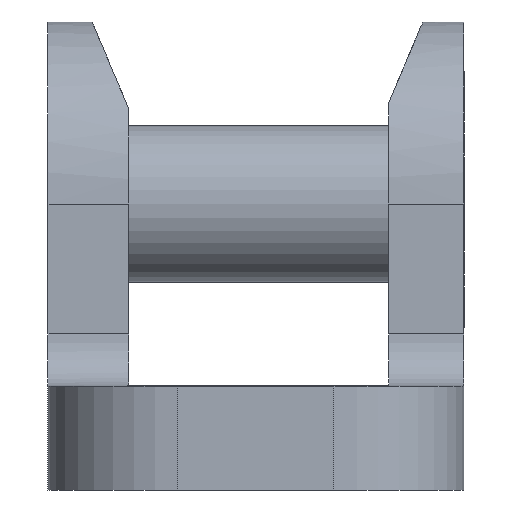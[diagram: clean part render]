
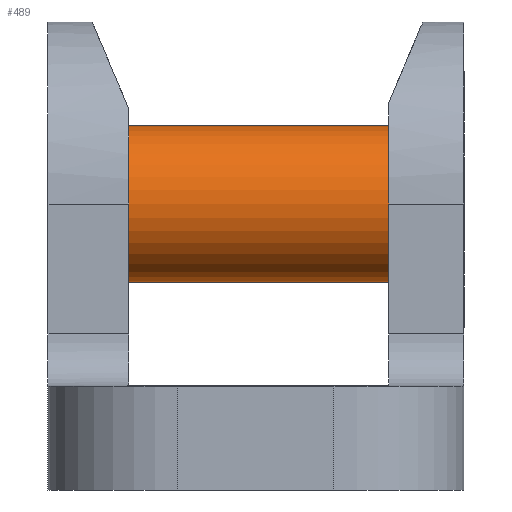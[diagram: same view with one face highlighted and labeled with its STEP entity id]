
A CAD part, front view. The second image highlights one B-rep face of the part: STEP entity #489.
In plain terms, the highlighted cylindrical face has radius 3 mm (diameter 6 mm), a partial arc.
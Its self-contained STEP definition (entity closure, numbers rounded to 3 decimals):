
#489 = ADVANCED_FACE ( 'NONE', ( #1368 ), #1363, .T. ) ;
#490 = EDGE_LOOP ( 'NONE', ( #491, #492, #493, #494 ) ) ;
#491 = ORIENTED_EDGE ( 'NONE', *, *, #499, .F. ) ;
#492 = ORIENTED_EDGE ( 'NONE', *, *, #552, .T. ) ;
#493 = ORIENTED_EDGE ( 'NONE', *, *, #505, .T. ) ;
#494 = ORIENTED_EDGE ( 'NONE', *, *, #555, .T. ) ;
#497 = VERTEX_POINT ( 'NONE', #1353 ) ;
#499 = EDGE_CURVE ( 'NONE', #497, #500, #1352, .T. ) ;
#500 = VERTEX_POINT ( 'NONE', #1348 ) ;
#503 = VERTEX_POINT ( 'NONE', #1401 ) ;
#505 = EDGE_CURVE ( 'NONE', #524, #503, #1400, .T. ) ;
#524 = VERTEX_POINT ( 'NONE', #1431 ) ;
#552 = EDGE_CURVE ( 'NONE', #497, #524, #1421, .T. ) ;
#555 = EDGE_CURVE ( 'NONE', #503, #500, #1413, .T. ) ;
#1348 = CARTESIAN_POINT ( 'NONE',  ( 0., 0., -3. ) ) ;
#1349 = DIRECTION ( 'NONE',  ( -1., 0., 0. ) ) ;
#1350 = VECTOR ( 'NONE', #1349, 1000. ) ;
#1351 = CARTESIAN_POINT ( 'NONE',  ( 16., 0., -3. ) ) ;
#1352 = LINE ( 'NONE', #1351, #1350 ) ;
#1353 = CARTESIAN_POINT ( 'NONE',  ( 16., 0., -3. ) ) ;
#1359 = DIRECTION ( 'NONE',  ( 0., 0., 1. ) ) ;
#1360 = DIRECTION ( 'NONE',  ( -1., 0., 0. ) ) ;
#1361 = CARTESIAN_POINT ( 'NONE',  ( 16., 0., 0. ) ) ;
#1362 = AXIS2_PLACEMENT_3D ( 'NONE', #1361, #1360, #1359 ) ;
#1363 = CYLINDRICAL_SURFACE ( 'NONE', #1362, 3. ) ;
#1368 = FACE_OUTER_BOUND ( 'NONE', #490, .T. ) ;
#1397 = DIRECTION ( 'NONE',  ( -1., 0., 0. ) ) ;
#1398 = VECTOR ( 'NONE', #1397, 1000. ) ;
#1399 = CARTESIAN_POINT ( 'NONE',  ( 16., 0., 3. ) ) ;
#1400 = LINE ( 'NONE', #1399, #1398 ) ;
#1401 = CARTESIAN_POINT ( 'NONE',  ( 0., 0., 3. ) ) ;
#1406 = DIRECTION ( 'NONE',  ( 0., 0., 1. ) ) ;
#1407 = DIRECTION ( 'NONE',  ( 1., 0., 0. ) ) ;
#1408 = CARTESIAN_POINT ( 'NONE',  ( 0., 0., 0. ) ) ;
#1409 = AXIS2_PLACEMENT_3D ( 'NONE', #1408, #1407, #1406 ) ;
#1413 = CIRCLE ( 'NONE', #1409, 3. ) ;
#1417 = DIRECTION ( 'NONE',  ( 0., 0., 1. ) ) ;
#1418 = DIRECTION ( 'NONE',  ( -1., 0., 0. ) ) ;
#1419 = CARTESIAN_POINT ( 'NONE',  ( 16., 0., 0. ) ) ;
#1420 = AXIS2_PLACEMENT_3D ( 'NONE', #1419, #1418, #1417 ) ;
#1421 = CIRCLE ( 'NONE', #1420, 3. ) ;
#1431 = CARTESIAN_POINT ( 'NONE',  ( 16., 0., 3. ) ) ;
